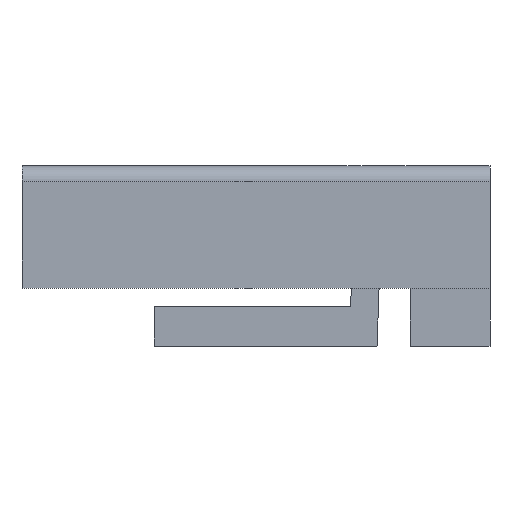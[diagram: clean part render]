
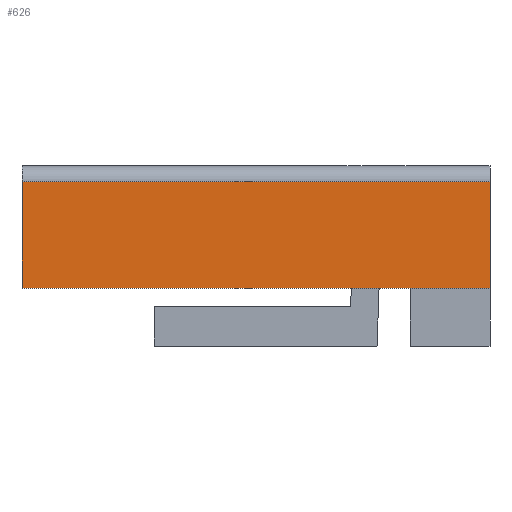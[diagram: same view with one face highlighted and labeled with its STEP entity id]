
A CAD part, left-side view. The second image highlights one B-rep face of the part: STEP entity #626.
In plain terms, the highlighted planar face has unit normal (-1, 0, 0).
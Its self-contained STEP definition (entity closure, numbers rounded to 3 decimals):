
#9=DIRECTION('',(0.,0.,-1.));
#10=VECTOR('',#9,4.06);
#11=CARTESIAN_POINT('',(-5.861,-7.82,-0.6));
#12=LINE('',#11,#10);
#13=DIRECTION('',(0.,1.,0.));
#14=VECTOR('',#13,17.85);
#15=CARTESIAN_POINT('',(-5.861,-7.82,-4.66));
#16=LINE('',#15,#14);
#17=DIRECTION('',(0.,0.,1.));
#18=VECTOR('',#17,4.06);
#19=CARTESIAN_POINT('',(-5.861,10.03,-4.66));
#20=LINE('',#19,#18);
#21=DIRECTION('',(0.,1.,0.));
#22=VECTOR('',#21,17.85);
#23=CARTESIAN_POINT('',(-5.861,-7.82,-0.6));
#24=LINE('',#23,#22);
#471=CARTESIAN_POINT('',(-5.861,-7.82,-0.6));
#472=CARTESIAN_POINT('',(-5.861,-7.82,-4.66));
#473=VERTEX_POINT('',#471);
#474=VERTEX_POINT('',#472);
#475=CARTESIAN_POINT('',(-5.861,10.03,-0.6));
#476=VERTEX_POINT('',#475);
#477=CARTESIAN_POINT('',(-5.861,10.03,-4.66));
#478=VERTEX_POINT('',#477);
#612=CARTESIAN_POINT('',(-5.861,0.,0.));
#613=DIRECTION('',(-1.,0.,0.));
#614=DIRECTION('',(0.,0.,-1.));
#615=AXIS2_PLACEMENT_3D('',#612,#613,#614);
#616=PLANE('',#615);
#618=ORIENTED_EDGE('',*,*,#617,.F.);
#619=ORIENTED_EDGE('',*,*,#602,.T.);
#621=ORIENTED_EDGE('',*,*,#620,.T.);
#623=ORIENTED_EDGE('',*,*,#622,.T.);
#624=EDGE_LOOP('',(#618,#619,#621,#623));
#625=FACE_OUTER_BOUND('',#624,.F.);
#626=ADVANCED_FACE('',(#625),#616,.T.);
#602=EDGE_CURVE('',#473,#474,#12,.T.);
#617=EDGE_CURVE('',#473,#476,#24,.T.);
#620=EDGE_CURVE('',#474,#478,#16,.T.);
#622=EDGE_CURVE('',#478,#476,#20,.T.);
